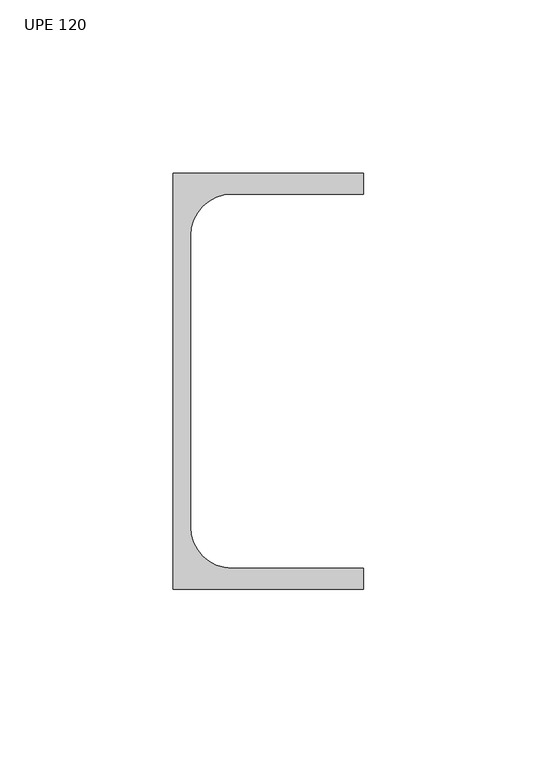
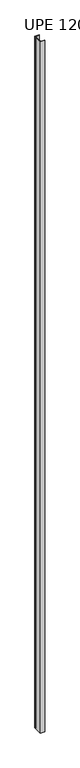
"""IFC4 building model written with IfcOpenShell, lengths in millimetres: column geometry, UPE - Canales de ala paralela - Pilar : UPE 120."""

from ifc_helpers import new_model, si_unit, point, frame_2d, origin, origin_with_axes, place, context, project, spatial, polyline, circle_curve, trimmed, segment, composite_curve, outline, extrude, source, transform, mapped, element, save


def upe_120_b411e4a0(model_context):
    return source(origin(), model_context, "Body", "SweptSolid", [
        extrude(outline(composite_curve([segment(polyline([(-19.8, 60.0), (35.2, 60.0), (35.2, 54.0), (-2.8, 54.0)]), True, "CONTINUOUS"), segment(trimmed(circle_curve(frame_2d((-2.8, 42.0)), 12.0), [point((-2.8, 54.0))], [point((-14.8, 42.0))], True, "CARTESIAN"), True, "CONTINUOUS"), segment(polyline([(-14.8, 42.0), (-14.8, -42.0)]), True, "CONTINUOUS"), segment(trimmed(circle_curve(frame_2d((-2.8, -42.0)), 12.0), [point((-14.8, -42.0))], [point((-2.8, -54.0))], True, "CARTESIAN"), True, "CONTINUOUS"), segment(polyline([(-2.8, -54.0), (35.2, -54.0), (35.2, -60.0), (-19.8, -60.0), (-19.8, 60.0)]), True, "CONTINUOUS")], self_intersect=False)), origin_with_axes(), (0.0, 0.0, 1.0), 9340.0),
    ])


if __name__ == "__main__":
    model = new_model("IFC4")
    model_context = context("Model", 3, world=origin())
    ifc_project = project(units=[si_unit("LENGTHUNIT", "METRE", prefix="MILLI")], contexts=[model_context])
    site = spatial("IfcSite", under=ifc_project)
    building = spatial("IfcBuilding", under=site)
    placement = place(None, origin())
    upe_120_shape = upe_120_b411e4a0(model_context)
    element("IfcColumn", 1, ObjectType="UPE - Canales de ala paralela - Pilar : UPE 120", at=placement, inside=building, context=model_context, shape_type="MappedRepresentation", body=[
        mapped(upe_120_shape, transform((0.0, 0.0, 0.0), x_axis=(1.0, 0.0, 0.0), y_axis=(0.0, 1.0, 0.0), z_axis=(0.0, 0.0, 1.0))),
    ])
    save(model, "model.ifc")
